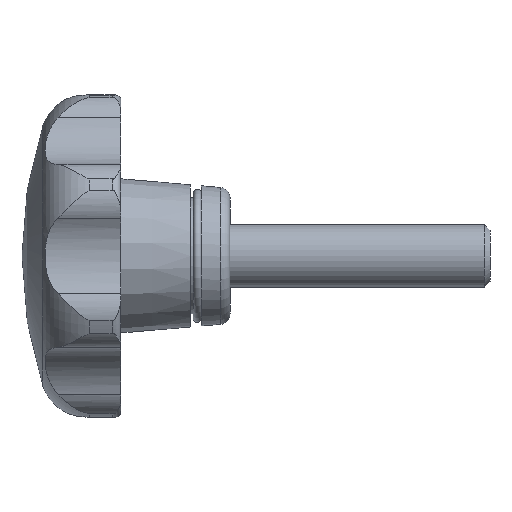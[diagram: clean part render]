
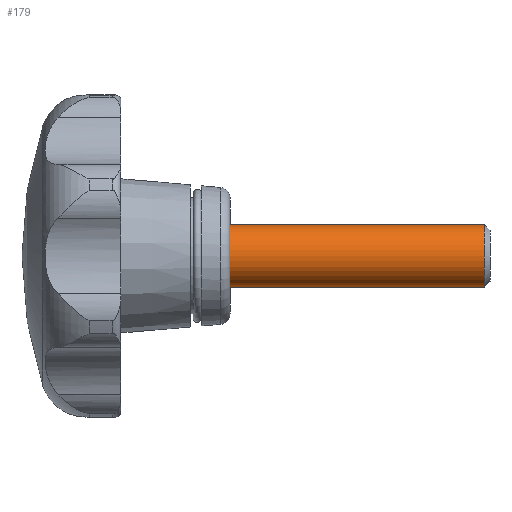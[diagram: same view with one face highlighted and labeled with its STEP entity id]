
A CAD part, left-side view. The second image highlights one B-rep face of the part: STEP entity #179.
In plain terms, the highlighted cylindrical face has radius 6 mm (diameter 12 mm), a full revolution.
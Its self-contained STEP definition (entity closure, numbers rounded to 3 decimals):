
#179 = ADVANCED_FACE( '', ( #341, #342 ), #343, .T. );
#341 = FACE_OUTER_BOUND( '', #679, .T. );
#342 = FACE_OUTER_BOUND( '', #680, .T. );
#343 = CYLINDRICAL_SURFACE( '', #681, 6. );
#679 = EDGE_LOOP( '', ( #1050 ) );
#680 = EDGE_LOOP( '', ( #1051 ) );
#681 = AXIS2_PLACEMENT_3D( '', #1052, #1053, #1054 );
#1050 = ORIENTED_EDGE( '', *, *, #2085, .F. );
#1051 = ORIENTED_EDGE( '', *, *, #2086, .T. );
#1052 = CARTESIAN_POINT( '', ( 0., -50., 0. ) );
#1053 = DIRECTION( '', ( 0., 1., 0. ) );
#1054 = DIRECTION( '', ( 0., 0., -1. ) );
#2085 = EDGE_CURVE( '', #2434, #2434, #2435, .T. );
#2086 = EDGE_CURVE( '', #2436, #2436, #2437, .T. );
#2434 = VERTEX_POINT( '', #3040 );
#2435 = CIRCLE( '', #3041, 6. );
#2436 = VERTEX_POINT( '', #3042 );
#2437 = CIRCLE( '', #3043, 6. );
#3040 = CARTESIAN_POINT( '', ( 0., -48.927, -6. ) );
#3041 = AXIS2_PLACEMENT_3D( '', #4772, #4773, #4774 );
#3042 = CARTESIAN_POINT( '', ( 0., 0., -6. ) );
#3043 = AXIS2_PLACEMENT_3D( '', #4775, #4776, #4777 );
#4772 = CARTESIAN_POINT( '', ( 0., -48.927, 0. ) );
#4773 = DIRECTION( '', ( 0., -1., 0. ) );
#4774 = DIRECTION( '', ( 0., 0., -1. ) );
#4775 = CARTESIAN_POINT( '', ( 0., 0., 0. ) );
#4776 = DIRECTION( '', ( 0., -1., 0. ) );
#4777 = DIRECTION( '', ( 0., 0., -1. ) );
